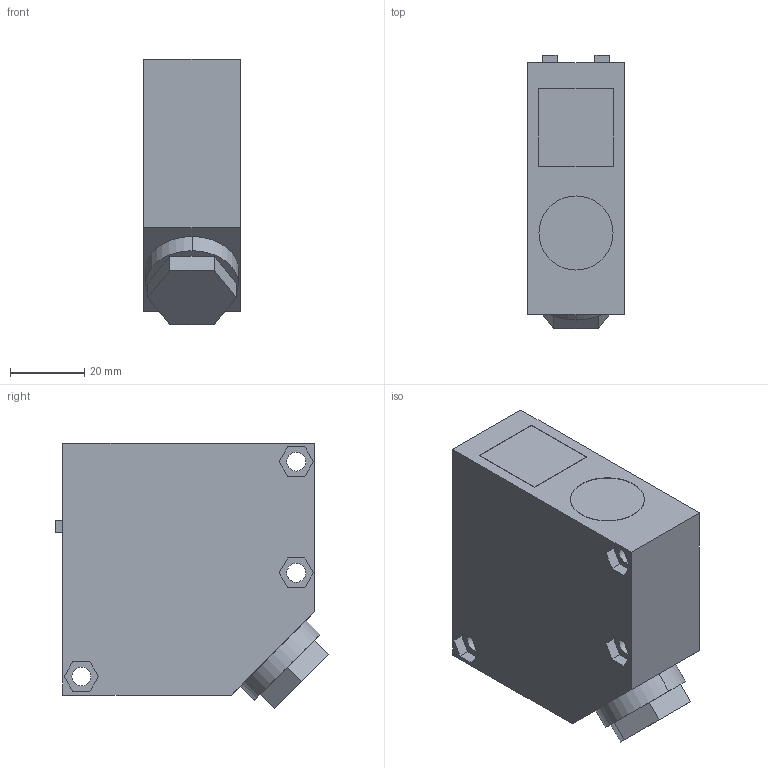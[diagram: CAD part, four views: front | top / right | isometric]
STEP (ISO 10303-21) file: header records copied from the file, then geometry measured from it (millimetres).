
FILE_DESCRIPTION (( 'STEP AP203' ), '1' );
FILE_NAME ('EQ-501.STEP', '2005-09-08T01:59:18', ( '' ), ( '' ), 'SwSTEP 2.0', 'SolidWorks 2004073', '' );
FILE_SCHEMA (( 'CONFIG_CONTROL_DESIGN' ));
Length unit declared in the file: millimetre
Products named in the file (1): EQ-501
Bounding box: 26 x 73.74 x 71.74 mm (x, y, z)
Volume: 115856.1 mm3; surface area: 17769.2 mm2
Topology: 1 solids, 1 shells, 99 faces, 243 edges, 162 vertices
Faces by surface type: plane 85, cylinder 14
Entity records: 2974 total; most frequent: CARTESIAN_POINT 505, ORIENTED_EDGE 486, DIRECTION 471, EDGE_CURVE 243, VECTOR 215, LINE 215, VERTEX_POINT 162, AXIS2_PLACEMENT_3D 128
